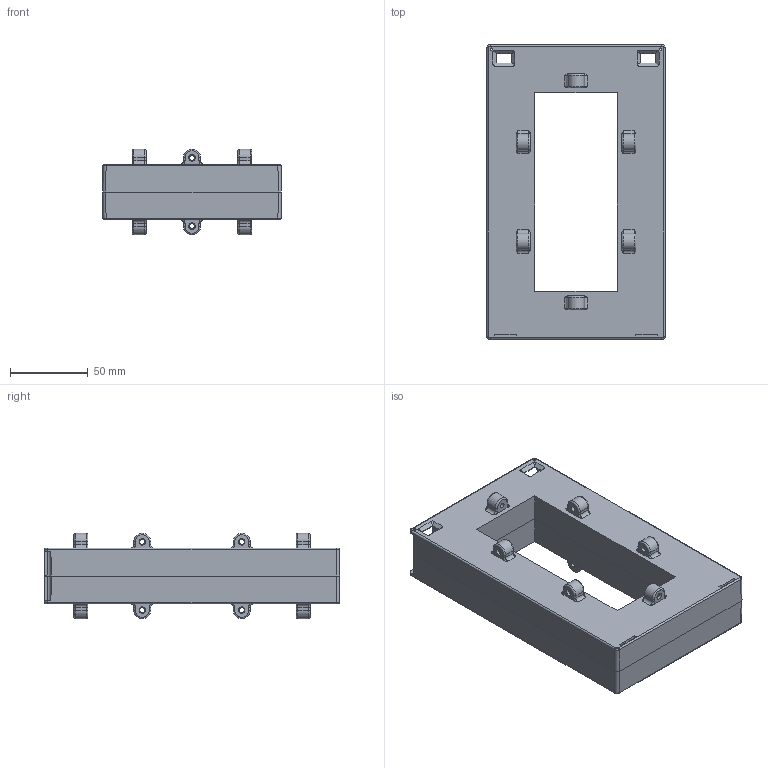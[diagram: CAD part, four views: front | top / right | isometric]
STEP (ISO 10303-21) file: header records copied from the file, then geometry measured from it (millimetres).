
FILE_DESCRIPTION(/* description */ (''),/* implementation_level */ '2;1');
FILE_NAME(/* name */ 'ps125.stp',/* time_stamp */ '2025-10-22T08:58:24+08:00',/* author */ (''),/* organization */ (''),/* preprocessor_version */ 'ST-DEVELOPER v18.102',/* originating_system */ 'SIEMENS PLM Software NX2206.1700',/* authorisation */ '');
FILE_SCHEMA (('AUTOMOTIVE_DESIGN { 1 0 10303 214 3 1 1 1 }'));
Length unit declared in the file: millimetre
Products named in the file (1): ps125_objects
Bounding box: 115 x 190 x 55 mm (x, y, z)
Volume: 144778.3 mm3; surface area: 131702 mm2
Topology: 2 solids, 2 shells, 542 faces, 1376 edges, 860 vertices
Faces by surface type: plane 302, cylinder 144, torus 80, bspline 16
Full cylindrical faces by diameter (mm): 1.5 x4, 1.7 x4, 3.3 x12, 4.2 x12
Entity records: 16733 total; most frequent: CARTESIAN_POINT 3900, ORIENTED_EDGE 2648, DIRECTION 2572, EDGE_CURVE 1324, AXIS2_PLACEMENT_3D 864, VERTEX_POINT 856, LINE 844, VECTOR 844
